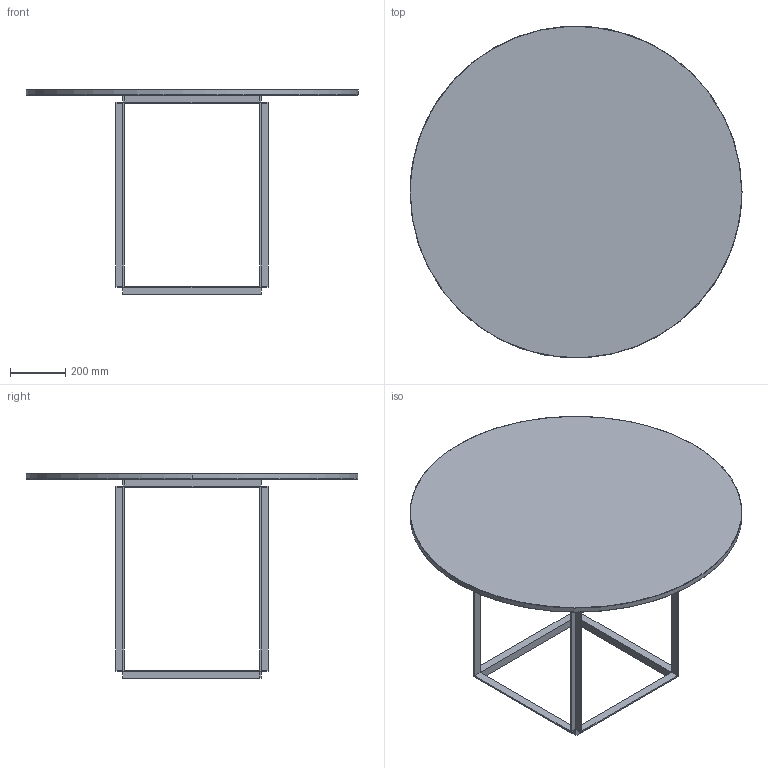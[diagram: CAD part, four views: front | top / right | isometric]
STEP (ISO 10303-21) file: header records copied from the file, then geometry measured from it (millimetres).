
FILE_DESCRIPTION(/* description */ (''),/* implementation_level */ '2;1');
FILE_NAME(/* name */ 'Florence Dining Table Ø120',/* time_stamp */ '2020-08-29T22:22:29+02:00',/* author */ (''),/* organization */ (''),/* preprocessor_version */ 'ST-DEVELOPER v15',/* originating_system */ '',/* authorisation */ '');
FILE_SCHEMA (('AUTOMOTIVE_DESIGN'));
Length unit declared in the file: millimetre
Products named in the file (1): Document
Bounding box: 1200 x 1198.05 x 740 mm (x, y, z)
Volume: 24476573.7 mm3; surface area: 3126877.9 mm2
Topology: 2 solids, 2 shells, 112 faces, 247 edges, 129 vertices
Faces by surface type: plane 98, bspline 14
Entity records: 3095 total; most frequent: CARTESIAN_POINT 1328, ORIENTED_EDGE 492, EDGE_CURVE 246, B_SPLINE_CURVE_WITH_KNOTS 216, VERTEX_POINT 128, EDGE_LOOP 120, ADVANCED_FACE 112, FACE_OUTER_BOUND 112
